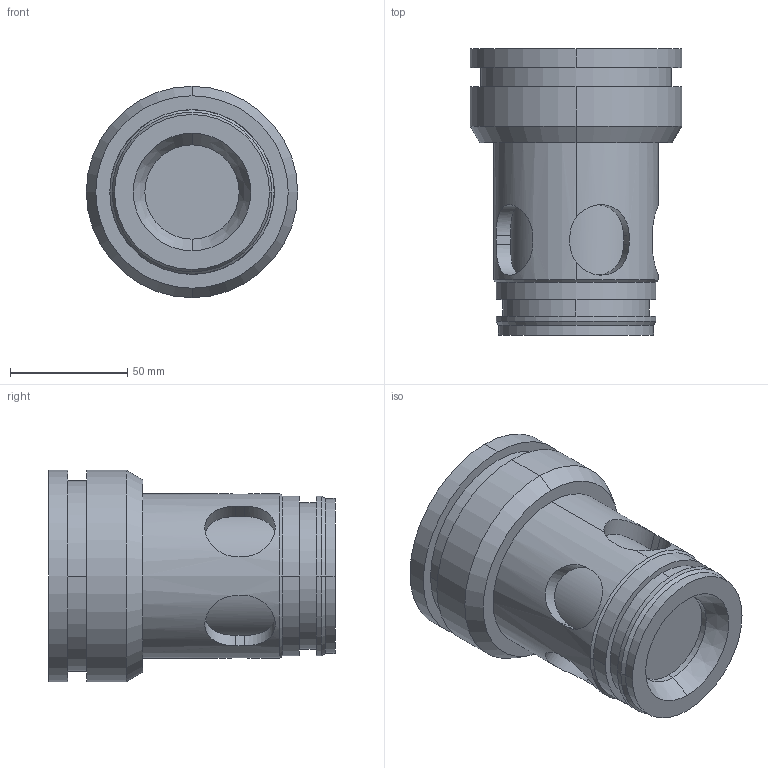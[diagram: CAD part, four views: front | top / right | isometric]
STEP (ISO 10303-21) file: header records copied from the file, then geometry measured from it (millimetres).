
FILE_DESCRIPTION (( 'STEP AP214' ), '1' );
FILE_NAME ('C.EN50-15.STEP', '2019-03-12T08:01:43', ( '' ), ( '' ), 'SwSTEP 2.0', 'SolidWorks 2018', '' );
FILE_SCHEMA (( 'AUTOMOTIVE_DESIGN' ));
Length unit declared in the file: millimetre
Products named in the file (1): C.EN50-15
Bounding box: 90 x 121.9 x 90 mm (x, y, z)
Volume: 489335.4 mm3; surface area: 49352.1 mm2
Topology: 1 solids, 1 shells, 66 faces, 149 edges, 96 vertices
Faces by surface type: cylinder 38, plane 20, cone 8
Entity records: 3546 total; most frequent: CARTESIAN_POINT 1318, DIRECTION 307, ORIENTED_EDGE 298, EDGE_CURVE 149, AXIS2_PLACEMENT_3D 117, VERTEX_POINT 96, EDGE_LOOP 77, LINE 73
